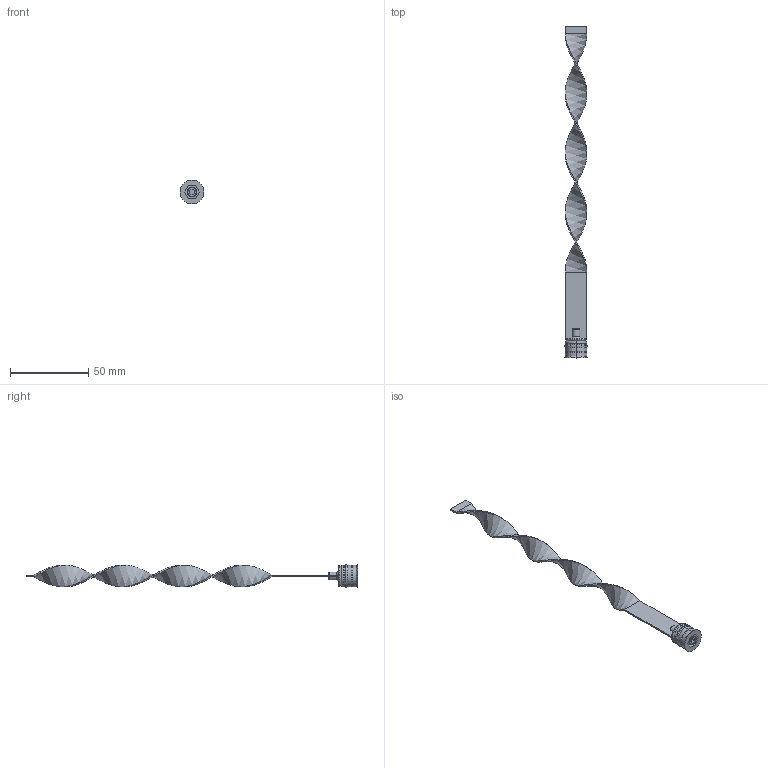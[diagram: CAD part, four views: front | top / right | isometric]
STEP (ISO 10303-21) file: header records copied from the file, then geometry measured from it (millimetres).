
FILE_DESCRIPTION (( 'STEP AP203' ), '1' );
FILE_NAME ('RLS-14Fx200.STEP', '2015-12-09T14:37:13', ( 'Balzi' ), ( '' ), 'SwSTEP 2.0', 'SolidWorks 2015', '' );
FILE_SCHEMA (( 'CONFIG_CONTROL_DESIGN' ));
Length unit declared in the file: millimetre
Products named in the file (1): RLS-14Fx200
Bounding box: 15.3 x 212.5 x 15.3 mm (x, y, z)
Volume: 4614.4 mm3; surface area: 7411.7 mm2
Topology: 1 solids, 1 shells, 80 faces, 187 edges, 113 vertices
Faces by surface type: plane 34, cylinder 17, cone 17, torus 8, bspline 4
Entity records: 3773 total; most frequent: CARTESIAN_POINT 1875, DIRECTION 390, ORIENTED_EDGE 374, EDGE_CURVE 187, AXIS2_PLACEMENT_3D 144, VERTEX_POINT 113, VECTOR 102, LINE 102
